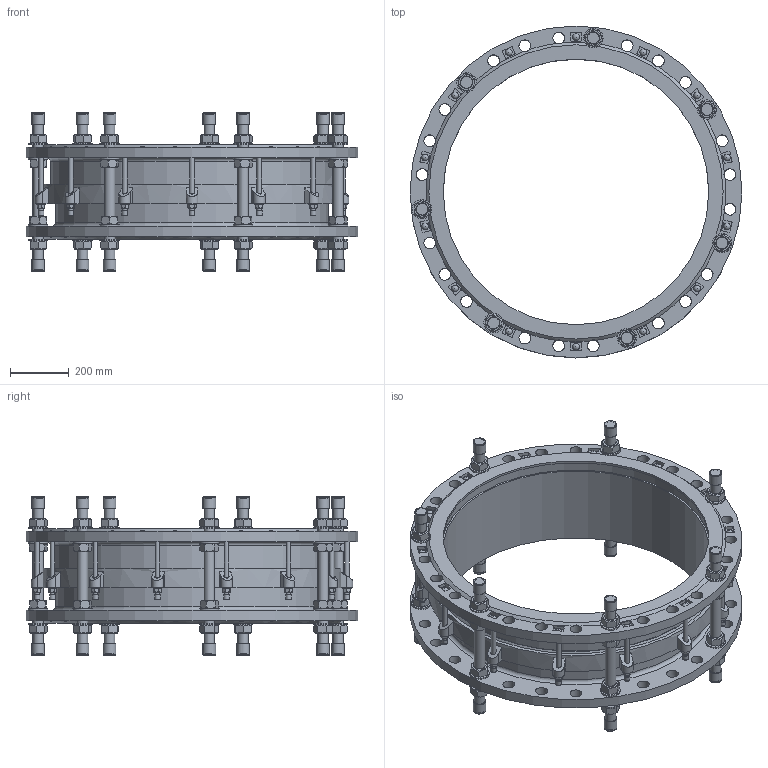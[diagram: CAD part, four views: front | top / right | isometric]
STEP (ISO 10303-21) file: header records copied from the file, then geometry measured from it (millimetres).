
FILE_DESCRIPTION(('STEP AP242'), '1');
FILE_NAME('Ìîíòàæíàÿ âñòàâêà', '', ('UNSPECIFIED'), ('UNSPECIFIED'), 'C3D Converter', 'C3D Toolkit', '');
FILE_SCHEMA(('AP242_MANAGED_MODEL_BASED_3D_ENGINEERING_MIM_LF { 1 0 10303 442 1 1 4 }'));
Length unit declared in the file: millimetre
Products named in the file (13): ШМ.М16.310
Assembly tree (137 placements, depth 2):
  (unnamed)
    (unnamed)
    (unnamed)
    (unnamed)
    (unnamed)  x28
    (unnamed)  x28
    ШМ.М16.310  x7
    (unnamed)  x14
    (unnamed)
    (unnamed)  x14
    (unnamed)  x14
    (unnamed)  x14
    (unnamed)  x14
Bounding box: 1125 x 1125 x 537.2 mm (x, y, z)
Volume: 49944066.4 mm3; surface area: 6528452.5 mm2
Topology: 137 solids, 137 shells, 1522 faces, 3454 edges, 2193 vertices
Faces by surface type: plane 900, cylinder 365, cone 202, torus 30, sphere 14, extrusion 11
Full cylindrical faces by diameter (mm): 16 x42, 17 x14, 18 x14, 19.2 x14, 30 x14, 33.221 x1, 36 x49, 37 x28, 40 x56, 43.2 x14, 66 x28, 900 x2, 924 x2, 936 x2, 960 x1, 984 x1, 986 x1, 1010 x1, 1125 x2
Entity records: 30634 total; most frequent: CARTESIAN_POINT 14272, DIRECTION 2734, ORIENTED_EDGE 2486, EDGE_CURVE 1243, AXIS2_PLACEMENT_3D 1084, VERTEX_POINT 896, EDGE_LOOP 735, FACE_BOUND 569
